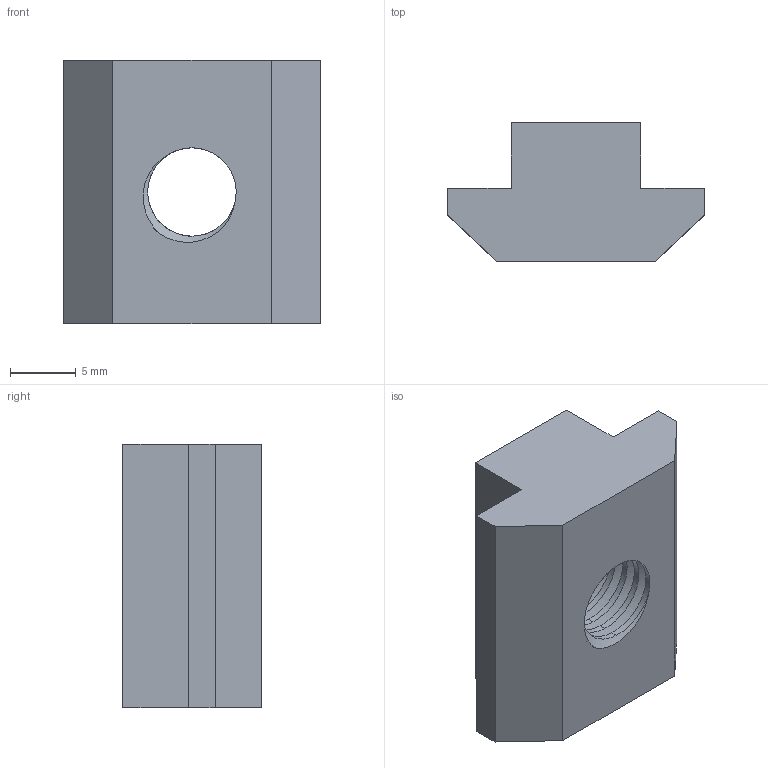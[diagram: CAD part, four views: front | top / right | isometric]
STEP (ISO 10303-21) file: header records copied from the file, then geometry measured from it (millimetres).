
FILE_DESCRIPTION (( 'STEP AP203' ), '1' );
FILE_NAME ('128-CE-SDN-45.STEP', '2015-07-09T08:57:22', ( '' ), ( '' ), 'SwSTEP 2.0', 'SolidWorks 2013', '' );
FILE_SCHEMA (( 'CONFIG_CONTROL_DESIGN' ));
Length unit declared in the file: millimetre
Products named in the file (1): 128-CE-SDN-45
Bounding box: 19.5 x 10.5 x 20 mm (x, y, z)
Volume: 2444.9 mm3; surface area: 1704.8 mm2
Topology: 1 solids, 1 shells, 33 faces, 93 edges, 62 vertices
Faces by surface type: cylinder 19, plane 12, bspline 2
Entity records: 2203 total; most frequent: CARTESIAN_POINT 1387, ORIENTED_EDGE 186, DIRECTION 120, EDGE_CURVE 93, VERTEX_POINT 62, VECTOR 48, LINE 48, AXIS2_PLACEMENT_3D 36
